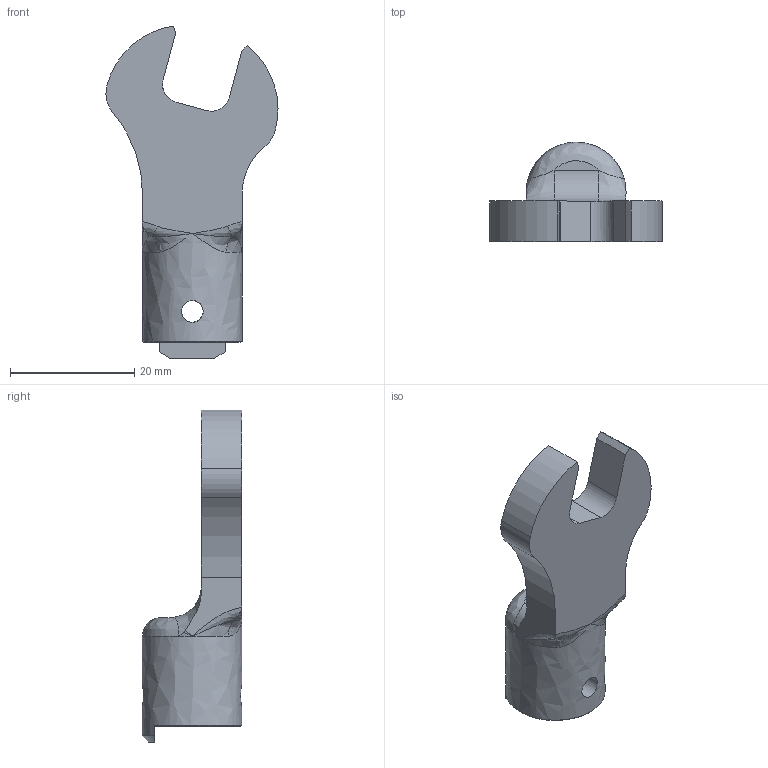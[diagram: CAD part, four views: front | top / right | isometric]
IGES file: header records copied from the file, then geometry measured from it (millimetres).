
Global section: file name: SH10DX11; native system: Autodesk Inventor 2016; preprocessor: unknown; author: Q600; date: 20151029.185048; units: millimetre
Bounding box: 27.65 x 16 x 53.35 mm (x, y, z)
Volume: 6039.6 mm3; surface area: 3602.4 mm2
Topology: 1 solids, 1 shells, 44 faces, 131 edges, 83 vertices
Faces by surface type: bspline 44
